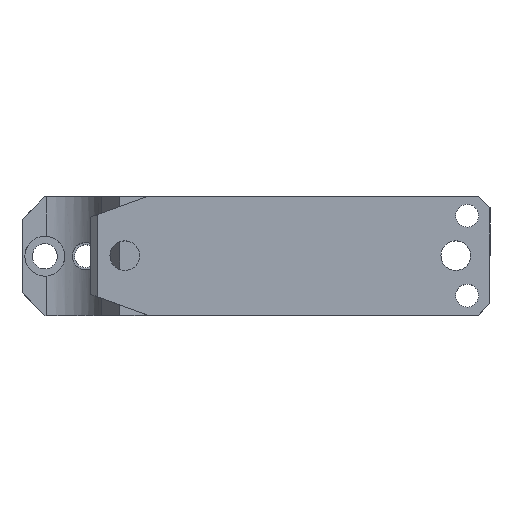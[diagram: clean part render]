
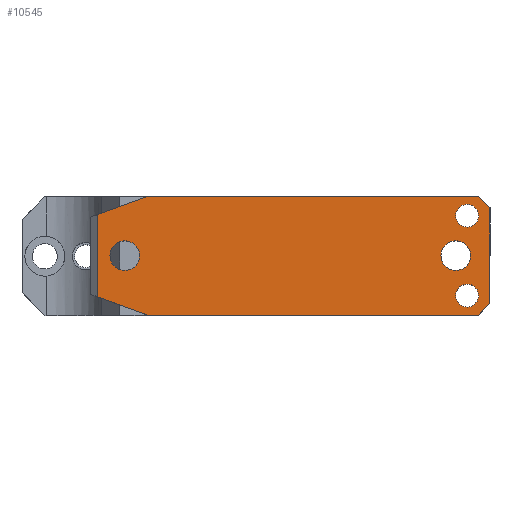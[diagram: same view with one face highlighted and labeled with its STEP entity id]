
A CAD part, top view. The second image highlights one B-rep face of the part: STEP entity #10545.
In plain terms, the highlighted planar face has unit normal (0, 0, 1).
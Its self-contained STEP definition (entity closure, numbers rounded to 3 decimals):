
#119 = LINE ( 'NONE', #799, #14215 ) ;
#517 = CARTESIAN_POINT ( 'NONE',  ( 174., -17.5, 125. ) ) ;
#799 = CARTESIAN_POINT ( 'NONE',  ( 9., -16.901, 125. ) ) ;
#1022 = DIRECTION ( 'NONE',  ( 0., 0., -1. ) ) ;
#1072 = ORIENTED_EDGE ( 'NONE', *, *, #10001, .T. ) ;
#1530 = CARTESIAN_POINT ( 'NONE',  ( 12., 26., 125. ) ) ;
#1623 = FACE_BOUND ( 'NONE', #12257, .T. ) ;
#1656 = DIRECTION ( 'NONE',  ( -1., 0., 0. ) ) ;
#1844 = VERTEX_POINT ( 'NONE', #5509 ) ;
#1943 = LINE ( 'NONE', #12509, #13770 ) ;
#2029 = VERTEX_POINT ( 'NONE', #8041 ) ;
#2054 = ORIENTED_EDGE ( 'NONE', *, *, #10081, .T. ) ;
#2067 = VECTOR ( 'NONE', #4970, 1000. ) ;
#2083 = CARTESIAN_POINT ( 'NONE',  ( 9., -26., 125. ) ) ;
#2088 = AXIS2_PLACEMENT_3D ( 'NONE', #10132, #3449, #11272 ) ;
#2089 = EDGE_CURVE ( 'NONE', #5139, #8427, #11439, .T. ) ;
#2131 = CARTESIAN_POINT ( 'NONE',  ( 179., -17.5, 125. ) ) ;
#2179 = CARTESIAN_POINT ( 'NONE',  ( 175.5, 0., 125. ) ) ;
#2340 = AXIS2_PLACEMENT_3D ( 'NONE', #11801, #12923, #6230 ) ;
#2444 = CARTESIAN_POINT ( 'NONE',  ( 179., 17.5, 125. ) ) ;
#2533 = DIRECTION ( 'NONE',  ( -0.707, -0.707, 0. ) ) ;
#2636 = CIRCLE ( 'NONE', #2088, 6.5 ) ;
#2757 = LINE ( 'NONE', #1530, #2067 ) ;
#2941 = ORIENTED_EDGE ( 'NONE', *, *, #11487, .F. ) ;
#2996 = CARTESIAN_POINT ( 'NONE',  ( 12., 17.993, 125. ) ) ;
#3047 = DIRECTION ( 'NONE',  ( 0., 0., -1. ) ) ;
#3126 = DIRECTION ( 'NONE',  ( 1., 0., 0. ) ) ;
#3132 = CIRCLE ( 'NONE', #6033, 5. ) ;
#3151 = DIRECTION ( 'NONE',  ( 1., 0., 0. ) ) ;
#3263 = EDGE_CURVE ( 'NONE', #10875, #12899, #11396, .T. ) ;
#3378 = ORIENTED_EDGE ( 'NONE', *, *, #8683, .F. ) ;
#3449 = DIRECTION ( 'NONE',  ( 0., 0., -1. ) ) ;
#3555 = VERTEX_POINT ( 'NONE', #2996 ) ;
#3778 = CARTESIAN_POINT ( 'NONE',  ( 12., -17.993, 125. ) ) ;
#3897 = ORIENTED_EDGE ( 'NONE', *, *, #6162, .T. ) ;
#3931 = AXIS2_PLACEMENT_3D ( 'NONE', #5904, #13717, #7033 ) ;
#3995 = PLANE ( 'NONE',  #2340 ) ;
#4091 = VERTEX_POINT ( 'NONE', #13115 ) ;
#4212 = FACE_OUTER_BOUND ( 'NONE', #4330, .T. ) ;
#4330 = EDGE_LOOP ( 'NONE', ( #4616, #8656, #3378, #2054, #2941, #10189, #6311, #8201 ) ) ;
#4370 = EDGE_CURVE ( 'NONE', #11894, #1844, #2636, .T. ) ;
#4374 = LINE ( 'NONE', #2083, #7329 ) ;
#4562 = ORIENTED_EDGE ( 'NONE', *, *, #4370, .T. ) ;
#4616 = ORIENTED_EDGE ( 'NONE', *, *, #7328, .F. ) ;
#4620 = VERTEX_POINT ( 'NONE', #10514 ) ;
#4718 = CARTESIAN_POINT ( 'NONE',  ( 184., 26., 125. ) ) ;
#4754 = ORIENTED_EDGE ( 'NONE', *, *, #7423, .T. ) ;
#4772 = ORIENTED_EDGE ( 'NONE', *, *, #10140, .T. ) ;
#4918 = VERTEX_POINT ( 'NONE', #5569 ) ;
#4970 = DIRECTION ( 'NONE',  ( 0., -1., 0. ) ) ;
#5120 = AXIS2_PLACEMENT_3D ( 'NONE', #12196, #5516, #13309 ) ;
#5139 = VERTEX_POINT ( 'NONE', #8267 ) ;
#5157 = CARTESIAN_POINT ( 'NONE',  ( 9., 16.901, 125. ) ) ;
#5181 = CIRCLE ( 'NONE', #14426, 6.5 ) ;
#5296 = CARTESIAN_POINT ( 'NONE',  ( 169., 0., 125. ) ) ;
#5509 = CARTESIAN_POINT ( 'NONE',  ( 162.5, 0., 125. ) ) ;
#5516 = DIRECTION ( 'NONE',  ( 0., 0., -1. ) ) ;
#5569 = CARTESIAN_POINT ( 'NONE',  ( 34., 26., 125. ) ) ;
#5624 = DIRECTION ( 'NONE',  ( 0., 0., -1. ) ) ;
#5815 = VERTEX_POINT ( 'NONE', #6115 ) ;
#5871 = CIRCLE ( 'NONE', #9933, 6.5 ) ;
#5904 = CARTESIAN_POINT ( 'NONE',  ( 174., 17.5, 125. ) ) ;
#6033 = AXIS2_PLACEMENT_3D ( 'NONE', #517, #8313, #1656 ) ;
#6115 = CARTESIAN_POINT ( 'NONE',  ( 30.5, 0., 125. ) ) ;
#6162 = EDGE_CURVE ( 'NONE', #5815, #10950, #6758, .T. ) ;
#6230 = DIRECTION ( 'NONE',  ( -1., 0., 0. ) ) ;
#6311 = ORIENTED_EDGE ( 'NONE', *, *, #2089, .F. ) ;
#6396 = DIRECTION ( 'NONE',  ( -1., 0., 0. ) ) ;
#6447 = CARTESIAN_POINT ( 'NONE',  ( 9., 26., 125. ) ) ;
#6556 = LINE ( 'NONE', #5157, #9557 ) ;
#6565 = VERTEX_POINT ( 'NONE', #2131 ) ;
#6758 = CIRCLE ( 'NONE', #8351, 6.5 ) ;
#6855 = EDGE_LOOP ( 'NONE', ( #4754, #4562 ) ) ;
#7033 = DIRECTION ( 'NONE',  ( -1., 0., 0. ) ) ;
#7161 = FACE_BOUND ( 'NONE', #8171, .T. ) ;
#7248 = EDGE_CURVE ( 'NONE', #3555, #12788, #2757, .T. ) ;
#7328 = EDGE_CURVE ( 'NONE', #3555, #4918, #6556, .T. ) ;
#7329 = VECTOR ( 'NONE', #3126, 1000. ) ;
#7398 = DIRECTION ( 'NONE',  ( -0.94, 0.342, 0. ) ) ;
#7423 = EDGE_CURVE ( 'NONE', #1844, #11894, #5871, .T. ) ;
#7497 = EDGE_CURVE ( 'NONE', #10950, #5815, #5181, .T. ) ;
#7660 = CARTESIAN_POINT ( 'NONE',  ( 24., 0., 125. ) ) ;
#7743 = ORIENTED_EDGE ( 'NONE', *, *, #7497, .T. ) ;
#7764 = VECTOR ( 'NONE', #3151, 1000. ) ;
#7942 = LINE ( 'NONE', #4718, #10901 ) ;
#8041 = CARTESIAN_POINT ( 'NONE',  ( 184., -21., 125. ) ) ;
#8171 = EDGE_LOOP ( 'NONE', ( #1072, #10578 ) ) ;
#8185 = CARTESIAN_POINT ( 'NONE',  ( 179., 26., 125. ) ) ;
#8201 = ORIENTED_EDGE ( 'NONE', *, *, #14144, .F. ) ;
#8267 = CARTESIAN_POINT ( 'NONE',  ( 179., 26., 125. ) ) ;
#8313 = DIRECTION ( 'NONE',  ( 0., 0., -1. ) ) ;
#8351 = AXIS2_PLACEMENT_3D ( 'NONE', #12325, #5624, #13420 ) ;
#8427 = VERTEX_POINT ( 'NONE', #10250 ) ;
#8469 = CARTESIAN_POINT ( 'NONE',  ( 169., 17.5, 125. ) ) ;
#8656 = ORIENTED_EDGE ( 'NONE', *, *, #7248, .T. ) ;
#8683 = EDGE_CURVE ( 'NONE', #4620, #12788, #119, .T. ) ;
#8818 = DIRECTION ( 'NONE',  ( -1., 0., 0. ) ) ;
#9557 = VECTOR ( 'NONE', #12952, 1000. ) ;
#9723 = CARTESIAN_POINT ( 'NONE',  ( 174., 17.5, 125. ) ) ;
#9933 = AXIS2_PLACEMENT_3D ( 'NONE', #5296, #13095, #6396 ) ;
#10001 = EDGE_CURVE ( 'NONE', #12899, #10875, #13966, .T. ) ;
#10081 = EDGE_CURVE ( 'NONE', #4620, #14091, #4374, .T. ) ;
#10132 = CARTESIAN_POINT ( 'NONE',  ( 169., 0., 125. ) ) ;
#10140 = EDGE_CURVE ( 'NONE', #6565, #4091, #12932, .T. ) ;
#10145 = FACE_BOUND ( 'NONE', #13022, .T. ) ;
#10189 = ORIENTED_EDGE ( 'NONE', *, *, #14394, .F. ) ;
#10250 = CARTESIAN_POINT ( 'NONE',  ( 184., 21., 125. ) ) ;
#10514 = CARTESIAN_POINT ( 'NONE',  ( 34., -26., 125. ) ) ;
#10545 = ADVANCED_FACE ( 'NONE', ( #10145, #7161, #1623, #10839, #4212 ), #3995, .F. ) ;
#10578 = ORIENTED_EDGE ( 'NONE', *, *, #3263, .T. ) ;
#10740 = LINE ( 'NONE', #6447, #7764 ) ;
#10829 = DIRECTION ( 'NONE',  ( -1., 0., 0. ) ) ;
#10839 = FACE_BOUND ( 'NONE', #6855, .T. ) ;
#10857 = CARTESIAN_POINT ( 'NONE',  ( 179., -26., 125. ) ) ;
#10875 = VERTEX_POINT ( 'NONE', #2444 ) ;
#10901 = VECTOR ( 'NONE', #11402, 1000. ) ;
#10950 = VERTEX_POINT ( 'NONE', #12567 ) ;
#11079 = VECTOR ( 'NONE', #13738, 1000. ) ;
#11272 = DIRECTION ( 'NONE',  ( -1., 0., 0. ) ) ;
#11396 = CIRCLE ( 'NONE', #3931, 5. ) ;
#11402 = DIRECTION ( 'NONE',  ( 0., -1., 0. ) ) ;
#11439 = LINE ( 'NONE', #8185, #11079 ) ;
#11487 = EDGE_CURVE ( 'NONE', #2029, #14091, #1943, .T. ) ;
#11577 = EDGE_CURVE ( 'NONE', #4091, #6565, #3132, .T. ) ;
#11801 = CARTESIAN_POINT ( 'NONE',  ( 9., 26., 125. ) ) ;
#11894 = VERTEX_POINT ( 'NONE', #2179 ) ;
#12122 = AXIS2_PLACEMENT_3D ( 'NONE', #9723, #3047, #10829 ) ;
#12196 = CARTESIAN_POINT ( 'NONE',  ( 174., -17.5, 125. ) ) ;
#12257 = EDGE_LOOP ( 'NONE', ( #7743, #3897 ) ) ;
#12325 = CARTESIAN_POINT ( 'NONE',  ( 24., 0., 125. ) ) ;
#12509 = CARTESIAN_POINT ( 'NONE',  ( 179., -26., 125. ) ) ;
#12567 = CARTESIAN_POINT ( 'NONE',  ( 17.5, 0., 125. ) ) ;
#12788 = VERTEX_POINT ( 'NONE', #3778 ) ;
#12899 = VERTEX_POINT ( 'NONE', #8469 ) ;
#12923 = DIRECTION ( 'NONE',  ( 0., 0., -1. ) ) ;
#12932 = CIRCLE ( 'NONE', #5120, 5. ) ;
#12952 = DIRECTION ( 'NONE',  ( 0.94, 0.342, 0. ) ) ;
#13022 = EDGE_LOOP ( 'NONE', ( #14193, #4772 ) ) ;
#13095 = DIRECTION ( 'NONE',  ( 0., 0., -1. ) ) ;
#13115 = CARTESIAN_POINT ( 'NONE',  ( 169., -17.5, 125. ) ) ;
#13309 = DIRECTION ( 'NONE',  ( -1., 0., 0. ) ) ;
#13420 = DIRECTION ( 'NONE',  ( -1., 0., 0. ) ) ;
#13717 = DIRECTION ( 'NONE',  ( 0., 0., -1. ) ) ;
#13738 = DIRECTION ( 'NONE',  ( 0.707, -0.707, 0. ) ) ;
#13770 = VECTOR ( 'NONE', #2533, 1000. ) ;
#13966 = CIRCLE ( 'NONE', #12122, 5. ) ;
#14091 = VERTEX_POINT ( 'NONE', #10857 ) ;
#14144 = EDGE_CURVE ( 'NONE', #4918, #5139, #10740, .T. ) ;
#14193 = ORIENTED_EDGE ( 'NONE', *, *, #11577, .T. ) ;
#14215 = VECTOR ( 'NONE', #7398, 1000. ) ;
#14394 = EDGE_CURVE ( 'NONE', #8427, #2029, #7942, .T. ) ;
#14426 = AXIS2_PLACEMENT_3D ( 'NONE', #7660, #1022, #8818 ) ;
